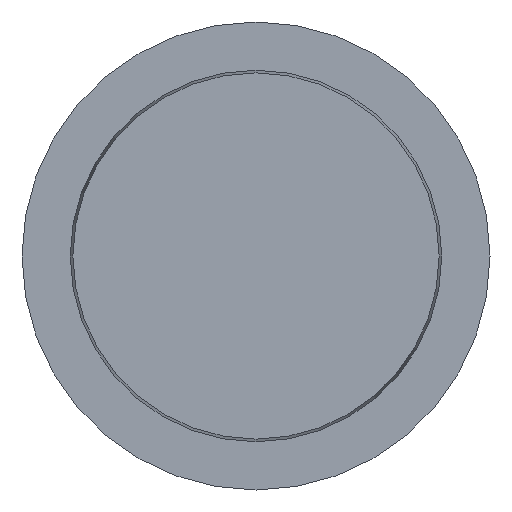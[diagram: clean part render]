
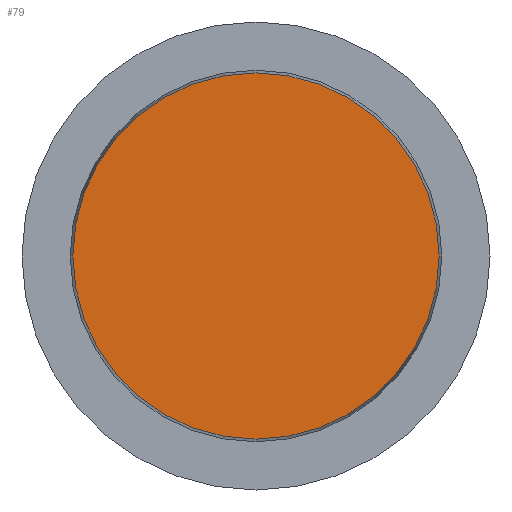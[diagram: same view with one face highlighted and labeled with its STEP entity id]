
A CAD part, front view. The second image highlights one B-rep face of the part: STEP entity #79.
In plain terms, the highlighted planar face has unit normal (0, -1, 0).
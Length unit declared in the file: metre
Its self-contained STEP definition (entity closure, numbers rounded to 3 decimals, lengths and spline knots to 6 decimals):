
#79 = ADVANCED_FACE( '', ( #94 ), #95, .T. );
#94 = FACE_OUTER_BOUND( '', #122, .T. );
#95 = PLANE( '', #123 );
#122 = EDGE_LOOP( '', ( #154 ) );
#123 = AXIS2_PLACEMENT_3D( '', #155, #156, #157 );
#154 = ORIENTED_EDGE( '', *, *, #195, .T. );
#155 = CARTESIAN_POINT( '', ( 0., 0., 0. ) );
#156 = DIRECTION( '', ( 0., -1., 0. ) );
#157 = DIRECTION( '', ( 0., 0., -1. ) );
#195 = EDGE_CURVE( '', #206, #206, #207, .T. );
#206 = VERTEX_POINT( '', #224 );
#207 = CIRCLE( '', #225, 0.02465 );
#224 = CARTESIAN_POINT( '', ( 0., 0., -0.02465 ) );
#225 = AXIS2_PLACEMENT_3D( '', #244, #245, #246 );
#244 = CARTESIAN_POINT( '', ( 0., 0., 0. ) );
#245 = DIRECTION( '', ( 0., -1., 0. ) );
#246 = DIRECTION( '', ( 0., 0., -1. ) );
